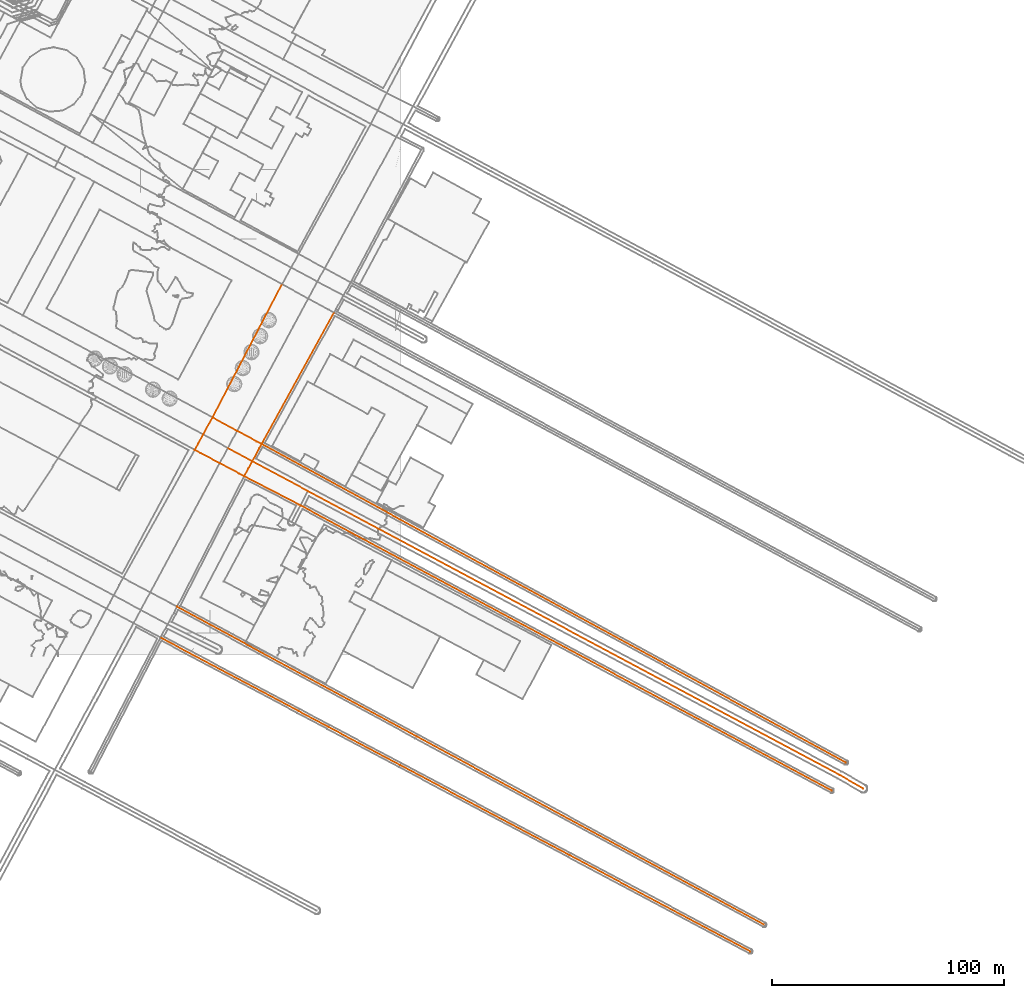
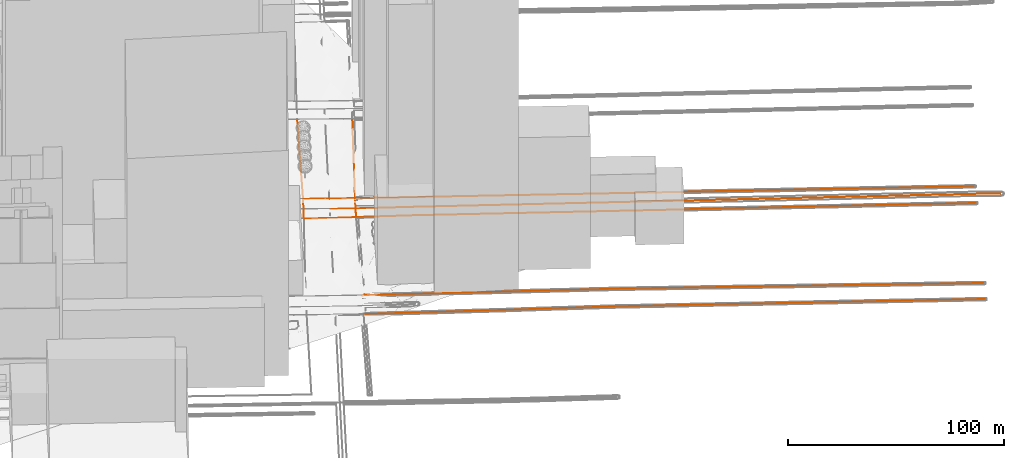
# Not in any storey, part 68 of 80: 11 civil elements.
"""IFC4 model written with IfcOpenShell, lengths in metres."""

from ifc_helpers import new_model, entity, si_unit, frame, origin_with_axes, place, context, subcontext, project, spatial, element, save


model = new_model("IFC4")

# Units and contexts
model_context = context("Model", 3, precision=1e-05, world=origin_with_axes())
body_context = subcontext(model_context, "Body", "Model", "MODEL_VIEW")
ifc_project = project(units=[si_unit("AREAUNIT", "SQUARE_METRE"), si_unit("LENGTHUNIT", "METRE")], contexts=[model_context])

# Sites
site_1_placement = place(None, origin_with_axes())
site_1 = spatial("IfcSite", under=ifc_project, at=site_1_placement, Name="Topoexport Site")
site_2_placement = place(site_1_placement, origin_with_axes())
site_2 = spatial("IfcSite", under=site_1, at=site_2_placement, Name="TPX_ROUTES")

# Civil elements
civil_element_1_placement = place(site_2_placement, frame((268.6801449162, 7.5070359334, 19.2499281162), z_axis=(0.0, 0.0, 1.0), x_axis=(1.0, 0.0, 0.0)))
element("IfcCivilElement", 1, at=civil_element_1_placement, inside=site_2, Name="Route 6", ObjectType="ROAD", context=body_context, shape_type="GeometricCurveSet", body=[
    entity("IfcGeometricCurveSet", [entity("IfcIndexedPolyCurve", entity("IfcCartesianPointList3D", [[0.0, 0.0, 0.0], [59.5367895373, -31.6700436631, 0.7634305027], [72.4908163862, -38.5691243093, 1.0172598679], [103.3850234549, -55.0069801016, 1.4969382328], [176.488415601, -93.8899418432, 1.5300706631], [254.451647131, -135.3689274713, 1.5300706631]]))]),
])
civil_element_2_placement = place(site_2_placement, frame((312.3134198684, 91.0597884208, 19.0259794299), z_axis=(0.0, 0.0, 1.0), x_axis=(1.0, 0.0, 0.0)))
element("IfcCivilElement", 2, at=civil_element_2_placement, inside=site_2, Name="Route 12", ObjectType="ROAD", context=body_context, shape_type="GeometricCurveSet", body=[
    entity("IfcGeometricCurveSet", [entity("IfcIndexedPolyCurve", entity("IfcCartesianPointList3D", [[0.0, 0.0, 0.0], [252.050802, -137.416036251, 1.7540193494]]))]),
])
civil_element_3_placement = place(site_2_placement, frame((297.7553175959, 89.2915826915, 19.0604681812), z_axis=(0.0, 0.0, 1.0), x_axis=(1.0, 0.0, 0.0)))
element("IfcCivilElement", 3, at=civil_element_3_placement, inside=site_2, Name="Route 13", ObjectType="ROAD", context=body_context, shape_type="GeometricCurveSet", body=[
    entity("IfcGeometricCurveSet", [entity("IfcIndexedPolyCurve", entity("IfcCartesianPointList3D", [[0.0, 0.0, 0.0], [10.5589808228, -5.6724575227, 0.0619241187], [34.5142174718, -18.5386045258, 0.3927505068], [263.8944051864, -141.030817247, 1.7195305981], [274.2029087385, -146.9056740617, 1.7195305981]]))]),
])
civil_element_4_placement = place(site_2_placement, frame((304.8273657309, 77.1392212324, 19.3971872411), z_axis=(0.0, 0.0, 1.0), x_axis=(1.0, 0.0, 0.0)))
element("IfcCivilElement", 4, at=civil_element_4_placement, inside=site_2, Name="Route 14", ObjectType="ROAD", context=body_context, shape_type="GeometricCurveSet", body=[
    entity("IfcGeometricCurveSet", [entity("IfcIndexedPolyCurve", entity("IfcCartesianPointList3D", [[0.0, 0.0, 0.0], [23.4401593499, -12.1283051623, 0.1413817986], [24.2387379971, -12.5630962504, 0.1592958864], [253.4146507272, -135.6240112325, 1.3828115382]]))]),
])
civil_element_5_placement = place(site_2_placement, frame((275.8442647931, 20.8131907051, 19.3619899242), z_axis=(0.0, 0.0, 1.0), x_axis=(1.0, 0.0, 0.0)))
element("IfcCivilElement", 5, at=civil_element_5_placement, inside=site_2, Name="Route 15", ObjectType="ROAD", context=body_context, shape_type="GeometricCurveSet", body=[
    entity("IfcGeometricCurveSet", [entity("IfcIndexedPolyCurve", entity("IfcCartesianPointList3D", [[253.2904956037, -137.1696919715, 1.418008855], [103.2944743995, -55.9405224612, 1.418008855], [0.0, 0.0, 0.0]]))]),
])
civil_element_6_placement = place(site_2_placement, frame((291.1099213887, 102.5036311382, 19.0963599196), z_axis=(0.0, 0.0, 1.0), x_axis=(1.0, 0.0, 0.0)))
element("IfcCivilElement", 6, at=civil_element_6_placement, inside=site_2, Name="Route 40", ObjectType="ROAD", context=body_context, shape_type="GeometricCurveSet", body=[
    entity("IfcGeometricCurveSet", [entity("IfcIndexedPolyCurve", entity("IfcCartesianPointList3D", [[30.0161975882, 57.4594671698, -0.5590079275], [0.0, 0.0, 0.0]]))]),
])
civil_element_7_placement = place(site_2_placement, frame((312.3134198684, 91.0597884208, 19.0259794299), z_axis=(0.0, 0.0, 1.0), x_axis=(1.0, 0.0, 0.0)))
element("IfcCivilElement", 7, at=civil_element_7_placement, inside=site_2, Name="Route 41", ObjectType="ROAD", context=body_context, shape_type="GeometricCurveSet", body=[
    entity("IfcGeometricCurveSet", [entity("IfcIndexedPolyCurve", entity("IfcCartesianPointList3D", [[31.2327616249, 56.6410549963, -0.4710707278], [0.0, 0.0, 0.0]]))]),
])
civil_element_8_placement = place(site_2_placement, frame((291.1099213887, 102.5036311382, 19.0963599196), z_axis=(0.0, 0.0, 1.0), x_axis=(1.0, 0.0, 0.0)))
element("IfcCivilElement", 8, at=civil_element_8_placement, inside=site_2, Name="Route 42", ObjectType="ROAD", context=body_context, shape_type="GeometricCurveSet", body=[
    entity("IfcGeometricCurveSet", [entity("IfcIndexedPolyCurve", entity("IfcCartesianPointList3D", [[0.0, 0.0, 0.0], [10.6280315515, -5.8048897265, -0.0299836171], [19.1475905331, -10.3242460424, -0.0906770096], [21.2034984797, -11.4438427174, -0.0703804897]]))]),
])
civil_element_9_placement = place(site_2_placement, frame((283.4471070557, 88.5366195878, 19.0902935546), z_axis=(0.0, 0.0, 1.0), x_axis=(1.0, 0.0, 0.0)))
element("IfcCivilElement", 9, at=civil_element_9_placement, inside=site_2, Name="Route 43", ObjectType="ROAD", context=body_context, shape_type="GeometricCurveSet", body=[
    entity("IfcGeometricCurveSet", [entity("IfcIndexedPolyCurve", entity("IfcCartesianPointList3D", [[0.0, 0.0, 0.0], [1.5208777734, 2.7821633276, 0.0133863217], [3.6371942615, 6.6259719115, 0.0155410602], [7.662814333, 13.9670115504, 0.006066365]]))]),
])
civil_element_10_placement = place(site_2_placement, frame((304.8273657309, 77.1392212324, 19.3971872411), z_axis=(0.0, 0.0, 1.0), x_axis=(1.0, 0.0, 0.0)))
element("IfcCivilElement", 10, at=civil_element_10_placement, inside=site_2, Name="Route 44", ObjectType="ROAD", context=body_context, shape_type="GeometricCurveSet", body=[
    entity("IfcGeometricCurveSet", [entity("IfcIndexedPolyCurve", entity("IfcCartesianPointList3D", [[7.4860541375, 13.9205671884, -0.3712078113], [6.3869919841, 11.8871602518, -0.3860498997], [3.4869326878, 6.4799039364, -0.2747949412], [1.7604773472, 3.2290475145, -0.212306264], [0.0, 0.0, 0.0]]))]),
])
civil_element_11_placement = place(site_2_placement, frame((283.4471070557, 88.5366195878, 19.0902935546), z_axis=(0.0, 0.0, 1.0), x_axis=(1.0, 0.0, 0.0)))
element("IfcCivilElement", 11, at=civil_element_11_placement, inside=site_2, Name="Route 45", ObjectType="ROAD", context=body_context, shape_type="GeometricCurveSet", body=[
    entity("IfcGeometricCurveSet", [entity("IfcIndexedPolyCurve", entity("IfcCartesianPointList3D", [[21.3802586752, -11.3973983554, 0.3068936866], [19.2734467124, -10.256187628, 0.1649030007], [10.8047782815, -5.7584345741, 0.0169097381], [2.5743918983, -1.4244325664, 0.0254734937], [0.0, 0.0, 0.0]]))]),
])

save(model, "model.ifc")
